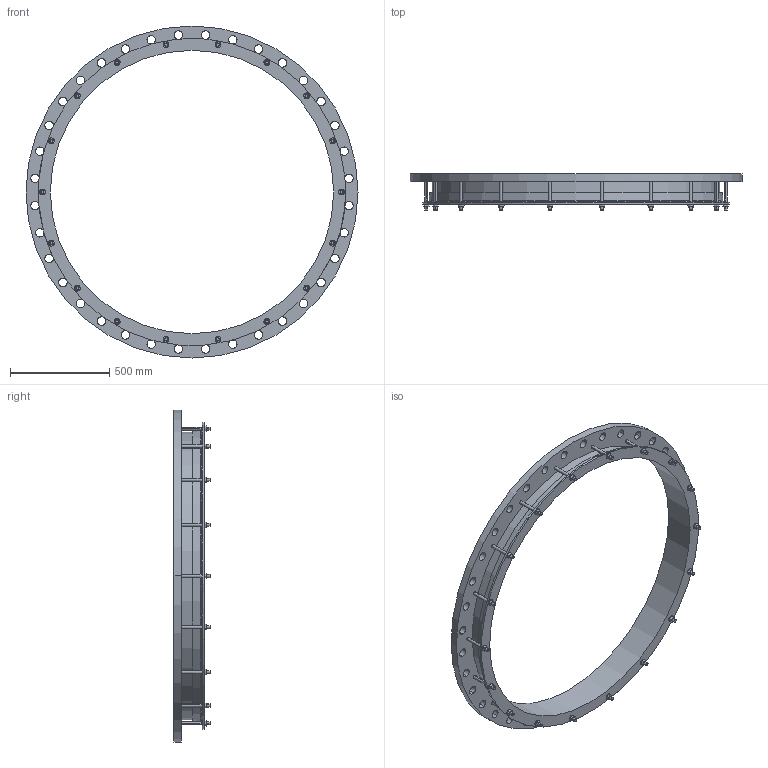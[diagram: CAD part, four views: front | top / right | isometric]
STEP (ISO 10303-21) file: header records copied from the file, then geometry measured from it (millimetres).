
FILE_DESCRIPTION((''),'2;1');
FILE_NAME('1426X1400PN10_9NOT','2019-01-17T',('mfairey'),('Glynwed Pipe Systems'),'CREO PARAMETRIC BY PTC INC, 2016130','CREO PARAMETRIC BY PTC INC, 2016130','');
FILE_SCHEMA(('CONFIG_CONTROL_DESIGN'));
Length unit declared in the file: millimetre
Products named in the file (1): 1426X1400PN10_9NOT
Bounding box: 1675 x 182 x 1675 mm (x, y, z)
Volume: 32980031.8 mm3; surface area: 3246094.4 mm2
Topology: 1 solids, 1 shells, 376 faces, 1006 edges, 670 vertices
Faces by surface type: cylinder 204, plane 166, cone 4, torus 2
Entity records: 13454 total; most frequent: CARTESIAN_POINT 3555, DIRECTION 2062, ORIENTED_EDGE 2012, EDGE_CURVE 1006, AXIS2_PLACEMENT_3D 765, VERTEX_POINT 670, VECTOR 532, LINE 532
